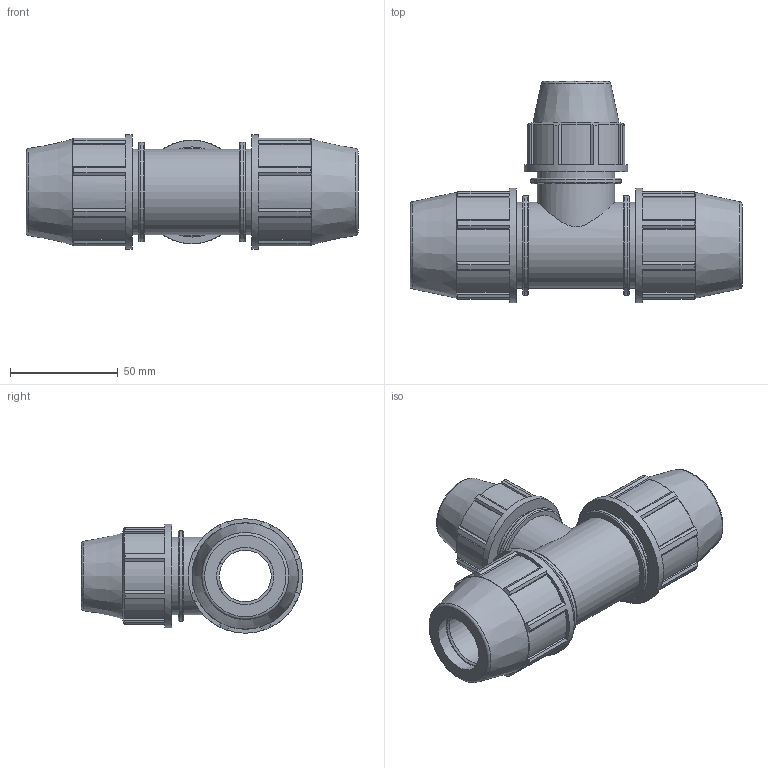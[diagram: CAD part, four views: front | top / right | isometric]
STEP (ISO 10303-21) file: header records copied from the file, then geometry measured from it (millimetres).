
FILE_DESCRIPTION(/* description */ ('PLASSON REDUCING TEE 3/4'''' - 1/2'''' - 3/4'''''),/* implementation_level */ '2;1');
FILE_NAME(/* name */ 'C:\Dropbox\KIMPROJECTS-Inventor 2019\99-16-3568-Processing Inch\ASTM Compression 2021\0734M0\0734M0007005.ipt.stp',/* time_stamp */ '2021-08-26T12:33:49+03:00',/* author */ ('Кирилл'),/* organization */ (''),/* preprocessor_version */ 'ST-DEVELOPER v17.2',/* originating_system */ 'Autodesk Inventor 2019',/* authorisation */ '');
FILE_SCHEMA (('AUTOMOTIVE_DESIGN { 1 0 10303 214 3 1 1 }'));
Length unit declared in the file: inch
Products named in the file (1): 0734M0007005
Bounding box: 153.92 x 102.49 x 53.09 mm (x, y, z)
Volume: 217746.7 mm3; surface area: 54751.5 mm2
Topology: 1 solids, 1 shells, 201 faces, 596 edges, 410 vertices
Faces by surface type: plane 138, cylinder 42, cone 12, torus 9
Full cylindrical faces by diameter (mm): 19.08 x1, 21.2 x1, 23.94 x1, 26.6 x2, 36.005 x2, 39.814 x3, 41.765 x1, 46.185 x2, 48.006 x1, 53.086 x2
Entity records: 7211 total; most frequent: CARTESIAN_POINT 1467, ORIENTED_EDGE 1192, DIRECTION 1157, EDGE_CURVE 596, AXIS2_PLACEMENT_3D 418, VERTEX_POINT 410, LINE 321, VECTOR 321
